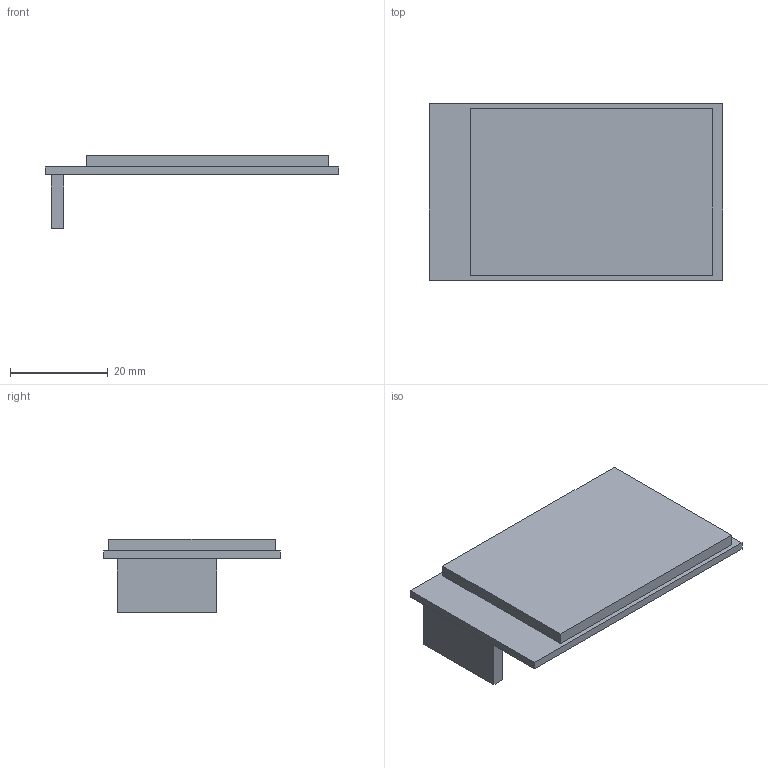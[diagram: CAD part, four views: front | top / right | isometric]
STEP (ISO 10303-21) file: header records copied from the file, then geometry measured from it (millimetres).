
FILE_DESCRIPTION(('tredder 3D model'),'2;1');
FILE_NAME('lcd_2in0_st7789_module_sim.step','2026-01-01T00:00:00',(''),(''),'tredder step_writer','tredder','');
FILE_SCHEMA(('AUTOMOTIVE_DESIGN { 1 0 10303 214 1 1 1 1 }'));
Length unit declared in the file: millimetre
Products named in the file (1): lcd_2in0_st7789_module_sim
Bounding box: 60 x 36 x 15.04 mm (x, y, z)
Volume: 8065 mm3; surface area: 9002 mm2
Topology: 3 solids, 3 shells, 18 faces, 36 edges, 24 vertices
Faces by surface type: plane 18
Entity records: 490 total; most frequent: CARTESIAN_POINT 79, DIRECTION 74, ORIENTED_EDGE 72, VECTOR 36, LINE 36, EDGE_CURVE 36, VERTEX_POINT 24, AXIS2_PLACEMENT_3D 19
